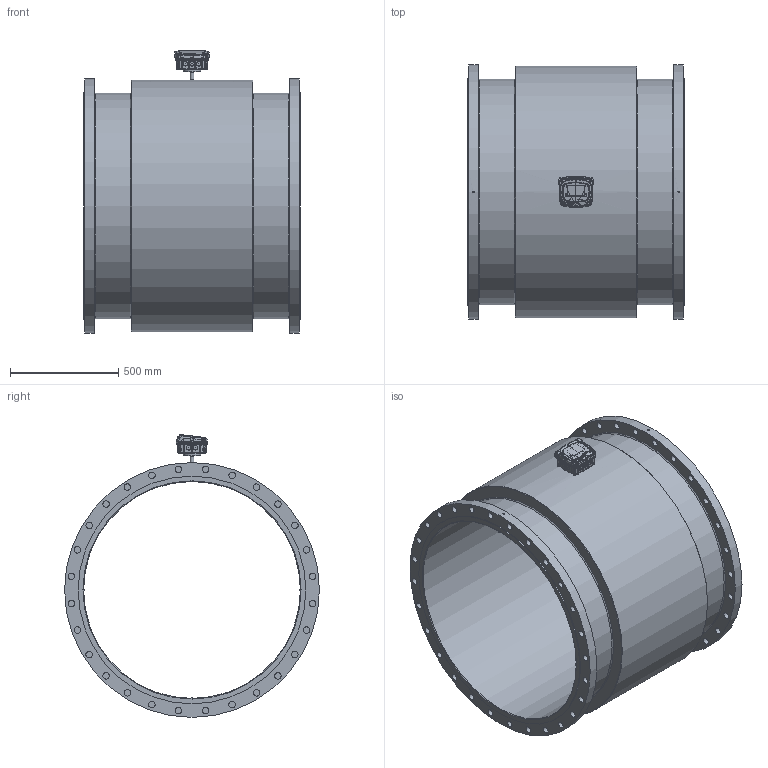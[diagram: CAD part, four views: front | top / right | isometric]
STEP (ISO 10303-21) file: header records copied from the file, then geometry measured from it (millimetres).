
FILE_DESCRIPTION((''),'2;1');
FILE_NAME('C:\Users\Claus\Dropbox\Projects 2011 - 2012\MJK Automation AS\STEP 3D DIN EN-1095-1\DN 1000 - DIN EN-1095-1.stp','2015-01-17T21:33:04',('Claus'),(''),'Autodesk Inventor 2013','Autodesk Inventor 2013','');
FILE_SCHEMA(('AUTOMOTIVE_DESIGN { 1 0 10303 214 1 1 1 1 }'));
Length unit declared in the file: millimetre
Products named in the file (7): DN 1000 - DIN EN-1092-1; FC_MagFlux_assembly_r1; CH Bund ml; FC Top rev 06.04; CH 03.02; Electrode group DN15 - DN32
Assembly tree (8 placements, depth 3):
  DN 1000 - DIN EN-1092-1
    DN 1000 - DIN EN-1092-1
    FC_MagFlux_assembly_r1
      CH Bund ml
      FC Top rev 06.04
      CH 03.02
    Electrode group DN15 - DN32  x3
Bounding box: 1000 x 1175 x 1303.84 mm (x, y, z)
Volume: 199803049.9 mm3; surface area: 8491475.3 mm2
Topology: 10 solids, 10 shells, 2975 faces, 8114 edges, 5283 vertices
Faces by surface type: bspline 1752, plane 810, cylinder 250, cone 123, torus 25, revolution 9, sphere 6
Full cylindrical faces by diameter (mm): 2.5 x3, 3 x6, 4 x1, 6 x2, 6.5 x4, 7.042 x4, 8 x3, 8.048 x4, 12.072 x4, 15 x1, 18 x1, 18.108 x1, 30 x56, 64 x1, 1000 x1, 1040 x2, 1050 x2, 1160 x1, 1175 x2
Entity records: 235426 total; most frequent: CARTESIAN_POINT 171770, ORIENTED_EDGE 15656, DIRECTION 7997, EDGE_CURVE 7828, VERTEX_POINT 5221, EDGE_LOOP 3433, VECTOR 3112, LINE 3112
